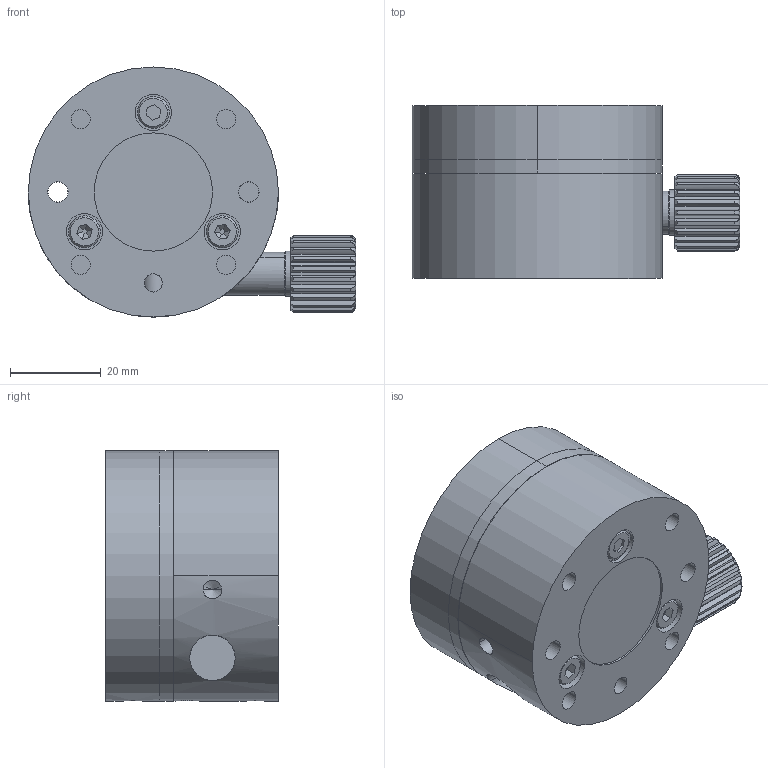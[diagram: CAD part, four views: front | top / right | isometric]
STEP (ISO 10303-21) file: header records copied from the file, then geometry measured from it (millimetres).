
FILE_DESCRIPTION (( 'STEP AP214' ), '1' );
FILE_NAME ('MDV 55 AV1.STEP', '2005-09-06T14:14:01', ( '' ), ( '' ), 'SwSTEP 2.0', 'SolidWorks 2004251', '' );
FILE_SCHEMA (( 'AUTOMOTIVE_DESIGN' ));
Length unit declared in the file: millimetre
Products named in the file (1): MDV 55 AV1
Bounding box: 72 x 38 x 55 mm (x, y, z)
Volume: 85840.8 mm3; surface area: 23871.9 mm2
Topology: 1 solids, 30 shells, 614 faces, 1466 edges, 939 vertices
Faces by surface type: cylinder 295, plane 160, cone 114, torus 43, sphere 2
Entity records: 19660 total; most frequent: CARTESIAN_POINT 5347, DIRECTION 2996, ORIENTED_EDGE 2896, EDGE_CURVE 1448, AXIS2_PLACEMENT_3D 1242, VERTEX_POINT 939, EDGE_LOOP 681, CIRCLE 627
